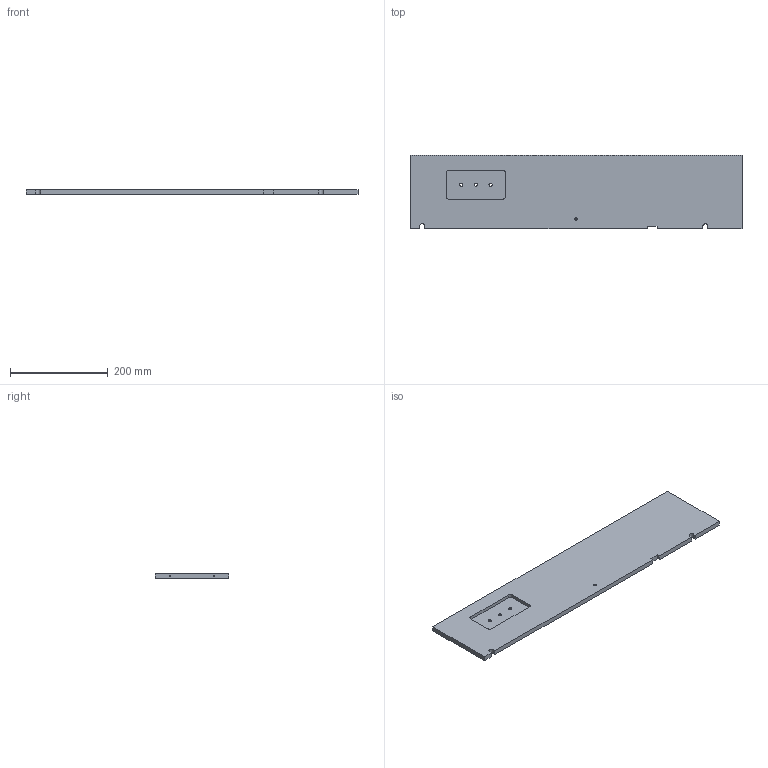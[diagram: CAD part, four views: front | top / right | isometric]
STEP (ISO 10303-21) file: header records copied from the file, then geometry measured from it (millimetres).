
FILE_DESCRIPTION(/* description */ ('Unknown'),/* implementation_level */ '2;1');
FILE_NAME(/* name */ '2a_modified back plate',/* time_stamp */ '2020-09-01T11:33:39+02:00',/* author */ ('Unknown'),/* organization */ ('Unknown'),/* preprocessor_version */ 'ST-DEVELOPER v16.7',/* originating_system */ 'Solid Edge',/* authorisation */ 'Unknown');
FILE_SCHEMA (('AUTOMOTIVE_DESIGN {1 0 10303 214 3 1 1}'));
Length unit declared in the file: millimetre
Products named in the file (1): 2a_modified back plate
Bounding box: 680 x 150 x 10 mm (x, y, z)
Volume: 965181.4 mm3; surface area: 224565.2 mm2
Topology: 1 solids, 1 shells, 47 faces, 127 edges, 83 vertices
Faces by surface type: plane 21, cylinder 18, cone 8
Full cylindrical faces by diameter (mm): 3.3 x8, 5 x1, 6.5 x3
Entity records: 1679 total; most frequent: DIRECTION 228, CARTESIAN_POINT 224, ORIENTED_EDGE 192, EDGE_CURVE 96, FACE_BOUND 84, AXIS2_PLACEMENT_3D 84, VERTEX_POINT 80, EDGE_LOOP 76
